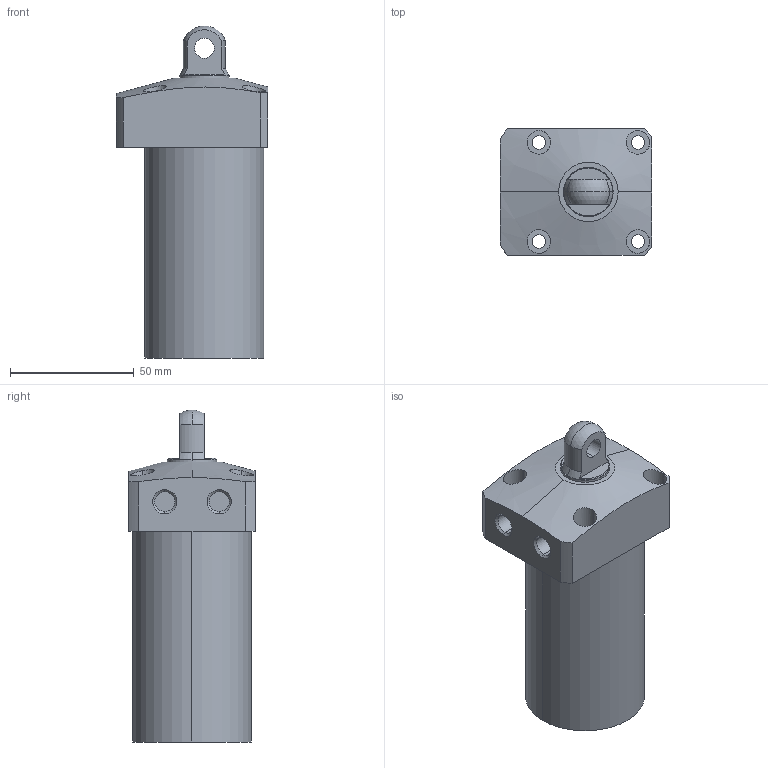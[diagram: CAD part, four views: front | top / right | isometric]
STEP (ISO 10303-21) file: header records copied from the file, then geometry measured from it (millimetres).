
FILE_DESCRIPTION (( 'STEP AP203' ), '1' );
FILE_NAME ('CLL-0480-CP-075.STEP', '2017-05-09T02:57:29', ( '' ), ( '' ), 'SwSTEP 2.0', 'SolidWorks 2015', '' );
FILE_SCHEMA (( 'CONFIG_CONTROL_DESIGN' ));
Length unit declared in the file: millimetre
Products named in the file (1): CLL-0480-CP-075
Bounding box: 61 x 51 x 134 mm (x, y, z)
Volume: 229482.8 mm3; surface area: 27505.6 mm2
Topology: 1 solids, 1 shells, 67 faces, 157 edges, 103 vertices
Faces by surface type: cylinder 35, plane 22, cone 8, sphere 2
Entity records: 2360 total; most frequent: CARTESIAN_POINT 682, DIRECTION 351, ORIENTED_EDGE 314, EDGE_CURVE 157, AXIS2_PLACEMENT_3D 146, VERTEX_POINT 103, EDGE_LOOP 88, CIRCLE 78
